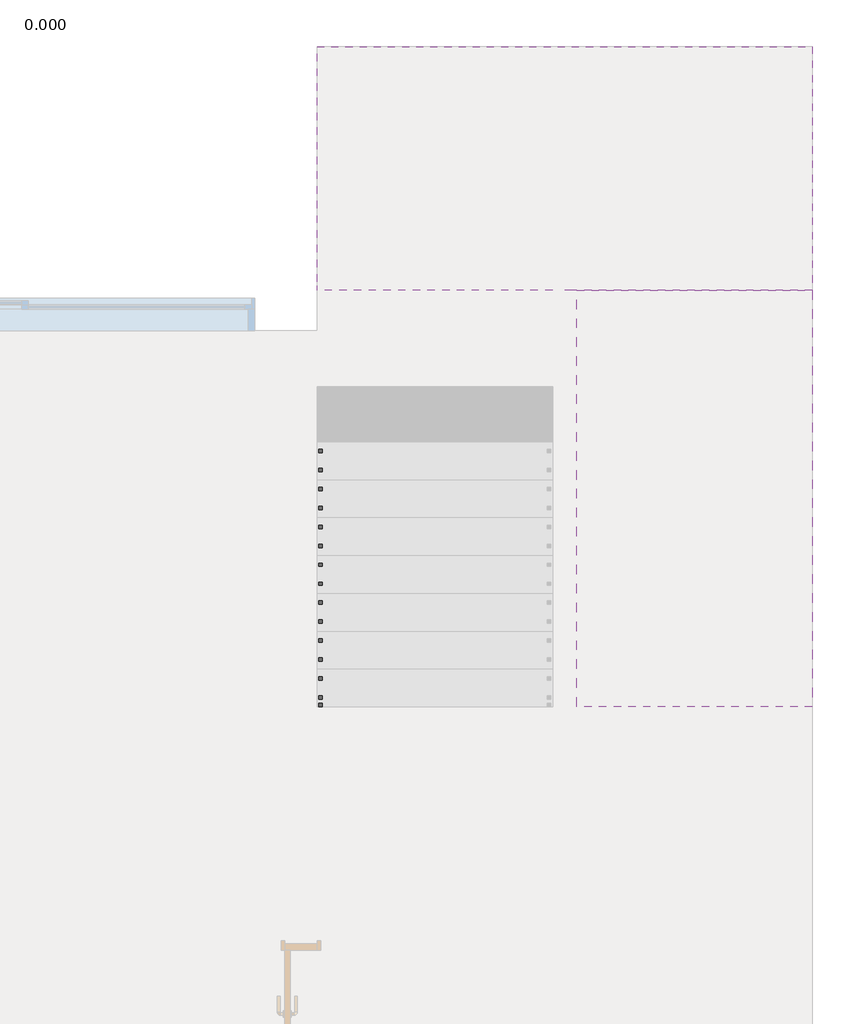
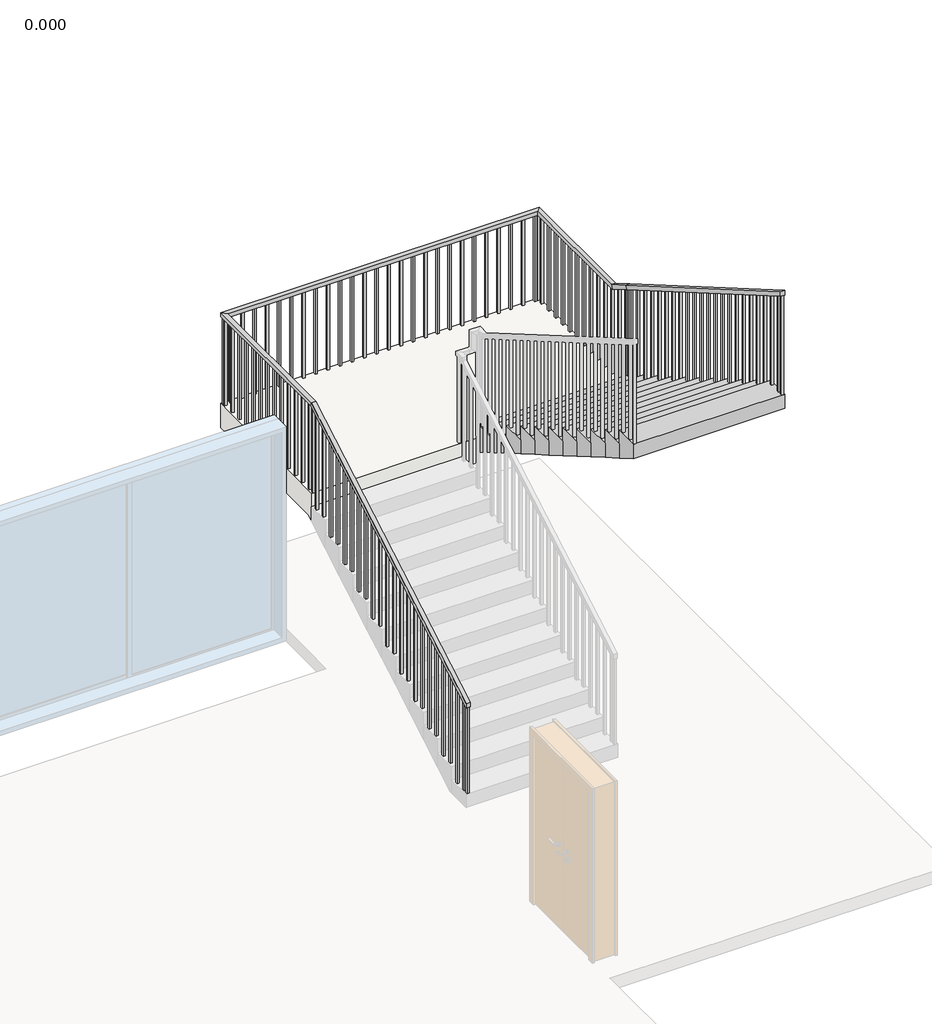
# One storey, part 4 of 4: 1 railing, 1 slab, 1 stair flight.
"""IFC4 building model written with IfcOpenShell, lengths in millimetres."""

from ifc_helpers import new_model, si_unit, frame, origin, place, context, project, spatial, polyline, outline, extrude, faceted_brep, element, save

model = new_model("IFC4")

# Units and contexts
model_context = context("Model", 3, world=origin())
ifc_project = project(units=[si_unit("LENGTHUNIT", "METRE", prefix="MILLI")], contexts=[model_context])

# Site, building, storey
site = spatial("IfcSite", under=ifc_project)
building = spatial("IfcBuilding", under=site)
storey = spatial("IfcBuildingStorey", under=building, Name="0.000", Elevation=0.0)

# Railing
placement = place(None, origin())
element("IfcRailing", 1, ObjectType="1100mm", at=placement, inside=storey, context=model_context, shape_type="SolidModel", body=[
    faceted_brep([(43253.3890344, 2616.6095817, 1262.5), (43253.3890344, 2616.6095817, 1204.6896546), (43303.3890344, 2616.6095817, 1204.6896546), (43303.3890344, 2616.6095817, 1262.5), (43253.3890344, 5696.6095817, 3050.0), (43253.3890344, 5710.0674076, 3000.0), (43303.3890344, 5710.0674076, 3000.0), (43303.3890344, 5696.6095817, 3050.0), (43253.3890344, 7496.2095817, 3050.0), (43253.3890344, 7496.2095817, 3000.0), (43303.3890344, 7446.2095817, 3000.0), (43303.3890344, 7446.2095817, 3050.0), (46912.5890344, 7496.2095817, 3050.0), (46912.5890344, 7496.2095817, 3000.0), (46862.5890344, 7446.2095817, 3000.0), (46862.5890344, 7446.2095817, 3050.0), (46912.5890344, 5976.6095817, 3050.0), (46912.5890344, 5963.1517559, 3000.0), (46862.5890344, 5963.1517559, 3000.0), (46862.5890344, 5976.6095817, 3050.0), (46912.5890344, 5696.6095817, 3212.5), (46912.5890344, 5671.5121213, 3169.2551451), (46862.5890344, 5671.5121213, 3169.2551451), (46862.5890344, 5696.6095817, 3212.5), (46912.5890344, 2616.6095817, 5000.0), (46862.5890344, 2616.6095817, 5000.0), (46862.5890344, 2616.6095817, 4942.1896546), (46912.5890344, 2616.6095817, 4942.1896546)], [[[0, 1, 2, 3]], [[1, 0, 4, 5]], [[2, 1, 5, 6]], [[3, 2, 6, 7]], [[0, 3, 7, 4]], [[5, 4, 8, 9]], [[6, 5, 9, 10]], [[7, 6, 10, 11]], [[4, 7, 11, 8]], [[9, 8, 12, 13]], [[10, 9, 13, 14]], [[11, 10, 14, 15]], [[8, 11, 15, 12]], [[13, 12, 16, 17]], [[14, 13, 17, 18]], [[15, 14, 18, 19]], [[12, 15, 19, 16]], [[17, 16, 20, 21]], [[18, 17, 21, 22]], [[19, 18, 22, 23]], [[16, 19, 23, 20]], [[24, 25, 26, 27]], [[21, 20, 24, 27]], [[22, 21, 27, 26]], [[23, 22, 26, 25]], [[20, 23, 25, 24]]]),
    extrude(outline(polyline([(2699.1095817, 3737.5), (2674.1095817, 3737.5), (2674.1095817, 4908.8191189), (2699.1095817, 4894.3101903), (2699.1095817, 3737.5)])), frame((46875.0890344, 0.0, 0.0), z_axis=(1.0, 0.0, 0.0), x_axis=(0.0, 1.0, 0.0)), (0.0, 0.0, 1.0), 25.0),
    extrude(outline(polyline([(2839.1095817, 3737.5), (2814.1095817, 3737.5), (2814.1095817, 4827.5691189), (2839.1095817, 4813.0601903), (2839.1095817, 3737.5)])), frame((46875.0890344, 0.0, 0.0), z_axis=(1.0, 0.0, 0.0), x_axis=(0.0, 1.0, 0.0)), (0.0, 0.0, 1.0), 25.0),
    extrude(outline(polyline([(2979.1095817, 3575.0), (2954.1095817, 3575.0), (2954.1095817, 4746.3191189), (2979.1095817, 4731.8101903), (2979.1095817, 3575.0)])), frame((46875.0890344, 0.0, 0.0), z_axis=(1.0, 0.0, 0.0), x_axis=(0.0, 1.0, 0.0)), (0.0, 0.0, 1.0), 25.0),
    extrude(outline(polyline([(3119.1095817, 3575.0), (3094.1095817, 3575.0), (3094.1095817, 4665.0691189), (3119.1095817, 4650.5601903), (3119.1095817, 3575.0)])), frame((46875.0890344, 0.0, 0.0), z_axis=(1.0, 0.0, 0.0), x_axis=(0.0, 1.0, 0.0)), (0.0, 0.0, 1.0), 25.0),
    extrude(outline(polyline([(3259.1095817, 3412.5), (3234.1095817, 3412.5), (3234.1095817, 4583.8191189), (3259.1095817, 4569.3101903), (3259.1095817, 3412.5)])), frame((46875.0890344, 0.0, 0.0), z_axis=(1.0, 0.0, 0.0), x_axis=(0.0, 1.0, 0.0)), (0.0, 0.0, 1.0), 25.0),
    extrude(outline(polyline([(3399.1095817, 3412.5), (3374.1095817, 3412.5), (3374.1095817, 4502.5691189), (3399.1095817, 4488.0601903), (3399.1095817, 3412.5)])), frame((46875.0890344, 0.0, 0.0), z_axis=(1.0, 0.0, 0.0), x_axis=(0.0, 1.0, 0.0)), (0.0, 0.0, 1.0), 25.0),
    extrude(outline(polyline([(3539.1095817, 3250.0), (3514.1095817, 3250.0), (3514.1095817, 4421.3191189), (3539.1095817, 4406.8101903), (3539.1095817, 3250.0)])), frame((46875.0890344, 0.0, 0.0), z_axis=(1.0, 0.0, 0.0), x_axis=(0.0, 1.0, 0.0)), (0.0, 0.0, 1.0), 25.0),
    extrude(outline(polyline([(3679.1095817, 3250.0), (3654.1095817, 3250.0), (3654.1095817, 4340.0691189), (3679.1095817, 4325.5601903), (3679.1095817, 3250.0)])), frame((46875.0890344, 0.0, 0.0), z_axis=(1.0, 0.0, 0.0), x_axis=(0.0, 1.0, 0.0)), (0.0, 0.0, 1.0), 25.0),
    extrude(outline(polyline([(3819.1095817, 3087.5), (3794.1095817, 3087.5), (3794.1095817, 4258.8191189), (3819.1095817, 4244.3101903), (3819.1095817, 3087.5)])), frame((46875.0890344, 0.0, 0.0), z_axis=(1.0, 0.0, 0.0), x_axis=(0.0, 1.0, 0.0)), (0.0, 0.0, 1.0), 25.0),
    extrude(outline(polyline([(3959.1095817, 3087.5), (3934.1095817, 3087.5), (3934.1095817, 4177.5691189), (3959.1095817, 4163.0601903), (3959.1095817, 3087.5)])), frame((46875.0890344, 0.0, 0.0), z_axis=(1.0, 0.0, 0.0), x_axis=(0.0, 1.0, 0.0)), (0.0, 0.0, 1.0), 25.0),
    extrude(outline(polyline([(4099.1095817, 2925.0), (4074.1095817, 2925.0), (4074.1095817, 4096.3191189), (4099.1095817, 4081.8101903), (4099.1095817, 2925.0)])), frame((46875.0890344, 0.0, 0.0), z_axis=(1.0, 0.0, 0.0), x_axis=(0.0, 1.0, 0.0)), (0.0, 0.0, 1.0), 25.0),
    extrude(outline(polyline([(4239.1095817, 2925.0), (4214.1095817, 2925.0), (4214.1095817, 4015.0691189), (4239.1095817, 4000.5601903), (4239.1095817, 2925.0)])), frame((46875.0890344, 0.0, 0.0), z_axis=(1.0, 0.0, 0.0), x_axis=(0.0, 1.0, 0.0)), (0.0, 0.0, 1.0), 25.0),
    extrude(outline(polyline([(4379.1095817, 2762.5), (4354.1095817, 2762.5), (4354.1095817, 3933.8191189), (4379.1095817, 3919.3101903), (4379.1095817, 2762.5)])), frame((46875.0890344, 0.0, 0.0), z_axis=(1.0, 0.0, 0.0), x_axis=(0.0, 1.0, 0.0)), (0.0, 0.0, 1.0), 25.0),
    extrude(outline(polyline([(4519.1095817, 2762.5), (4494.1095817, 2762.5), (4494.1095817, 3852.5691189), (4519.1095817, 3838.0601903), (4519.1095817, 2762.5)])), frame((46875.0890344, 0.0, 0.0), z_axis=(1.0, 0.0, 0.0), x_axis=(0.0, 1.0, 0.0)), (0.0, 0.0, 1.0), 25.0),
    extrude(outline(polyline([(4659.1095817, 2600.0), (4634.1095817, 2600.0), (4634.1095817, 3771.3191189), (4659.1095817, 3756.8101903), (4659.1095817, 2600.0)])), frame((46875.0890344, 0.0, 0.0), z_axis=(1.0, 0.0, 0.0), x_axis=(0.0, 1.0, 0.0)), (0.0, 0.0, 1.0), 25.0),
    extrude(outline(polyline([(4799.1095817, 2600.0), (4774.1095817, 2600.0), (4774.1095817, 3690.0691189), (4799.1095817, 3675.5601903), (4799.1095817, 2600.0)])), frame((46875.0890344, 0.0, 0.0), z_axis=(1.0, 0.0, 0.0), x_axis=(0.0, 1.0, 0.0)), (0.0, 0.0, 1.0), 25.0),
    extrude(outline(polyline([(4939.1095817, 2437.5), (4914.1095817, 2437.5), (4914.1095817, 3608.8191189), (4939.1095817, 3594.3101903), (4939.1095817, 2437.5)])), frame((46875.0890344, 0.0, 0.0), z_axis=(1.0, 0.0, 0.0), x_axis=(0.0, 1.0, 0.0)), (0.0, 0.0, 1.0), 25.0),
    extrude(outline(polyline([(5079.1095817, 2437.5), (5054.1095817, 2437.5), (5054.1095817, 3527.5691189), (5079.1095817, 3513.0601903), (5079.1095817, 2437.5)])), frame((46875.0890344, 0.0, 0.0), z_axis=(1.0, 0.0, 0.0), x_axis=(0.0, 1.0, 0.0)), (0.0, 0.0, 1.0), 25.0),
    extrude(outline(polyline([(5219.1095817, 2275.0), (5194.1095817, 2275.0), (5194.1095817, 3446.3191189), (5219.1095817, 3431.8101903), (5219.1095817, 2275.0)])), frame((46875.0890344, 0.0, 0.0), z_axis=(1.0, 0.0, 0.0), x_axis=(0.0, 1.0, 0.0)), (0.0, 0.0, 1.0), 25.0),
    extrude(outline(polyline([(5359.1095817, 2275.0), (5334.1095817, 2275.0), (5334.1095817, 3365.0691189), (5359.1095817, 3350.5601903), (5359.1095817, 2275.0)])), frame((46875.0890344, 0.0, 0.0), z_axis=(1.0, 0.0, 0.0), x_axis=(0.0, 1.0, 0.0)), (0.0, 0.0, 1.0), 25.0),
    extrude(outline(polyline([(5499.1095817, 2112.5), (5474.1095817, 2112.5), (5474.1095817, 3283.8191189), (5499.1095817, 3269.3101903), (5499.1095817, 2112.5)])), frame((46875.0890344, 0.0, 0.0), z_axis=(1.0, 0.0, 0.0), x_axis=(0.0, 1.0, 0.0)), (0.0, 0.0, 1.0), 25.0),
    extrude(outline(polyline([(5639.1095817, 2112.5), (5614.1095817, 2112.5), (5614.1095817, 3202.5691189), (5639.1095817, 3188.0601903), (5639.1095817, 2112.5)])), frame((46875.0890344, 0.0, 0.0), z_axis=(1.0, 0.0, 0.0), x_axis=(0.0, 1.0, 0.0)), (0.0, 0.0, 1.0), 25.0),
    extrude(outline(polyline([(5733.7095817, 1950.0), (5708.7095817, 1950.0), (5708.7095817, 3147.6673332), (5733.7095817, 3133.1584046), (5733.7095817, 1950.0)])), frame((46875.0890344, 0.0, 0.0), z_axis=(1.0, 0.0, 0.0), x_axis=(0.0, 1.0, 0.0)), (0.0, 0.0, 1.0), 25.0),
    extrude(outline(polyline([(5873.7095817, 1950.0), (5848.7095817, 1950.0), (5848.7095817, 3066.4173332), (5873.7095817, 3051.9084046), (5873.7095817, 1950.0)])), frame((46875.0890344, 0.0, 0.0), z_axis=(1.0, 0.0, 0.0), x_axis=(0.0, 1.0, 0.0)), (0.0, 0.0, 1.0), 25.0),
    extrude(outline(polyline([(46900.0890344, 6013.7095817), (46900.0890344, 5988.7095817), (46875.0890344, 5988.7095817), (46875.0890344, 6013.7095817), (46900.0890344, 6013.7095817)])), frame((0.0, 0.0, 1950.0), z_axis=(0.0, 0.0, 1.0), x_axis=(1.0, 0.0, 0.0)), (0.0, 0.0, 1.0), 1050.0),
    extrude(outline(polyline([(46900.0890344, 6153.7095817), (46900.0890344, 6128.7095817), (46875.0890344, 6128.7095817), (46875.0890344, 6153.7095817), (46900.0890344, 6153.7095817)])), frame((0.0, 0.0, 1950.0), z_axis=(0.0, 0.0, 1.0), x_axis=(1.0, 0.0, 0.0)), (0.0, 0.0, 1.0), 1050.0),
    extrude(outline(polyline([(46900.0890344, 6293.7095817), (46900.0890344, 6268.7095817), (46875.0890344, 6268.7095817), (46875.0890344, 6293.7095817), (46900.0890344, 6293.7095817)])), frame((0.0, 0.0, 1950.0), z_axis=(0.0, 0.0, 1.0), x_axis=(1.0, 0.0, 0.0)), (0.0, 0.0, 1.0), 1050.0),
    extrude(outline(polyline([(46900.0890344, 6433.7095817), (46900.0890344, 6408.7095817), (46875.0890344, 6408.7095817), (46875.0890344, 6433.7095817), (46900.0890344, 6433.7095817)])), frame((0.0, 0.0, 1950.0), z_axis=(0.0, 0.0, 1.0), x_axis=(1.0, 0.0, 0.0)), (0.0, 0.0, 1.0), 1050.0),
    extrude(outline(polyline([(46900.0890344, 6573.7095817), (46900.0890344, 6548.7095817), (46875.0890344, 6548.7095817), (46875.0890344, 6573.7095817), (46900.0890344, 6573.7095817)])), frame((0.0, 0.0, 1950.0), z_axis=(0.0, 0.0, 1.0), x_axis=(1.0, 0.0, 0.0)), (0.0, 0.0, 1.0), 1050.0),
    extrude(outline(polyline([(46900.0890344, 6713.7095817), (46900.0890344, 6688.7095817), (46875.0890344, 6688.7095817), (46875.0890344, 6713.7095817), (46900.0890344, 6713.7095817)])), frame((0.0, 0.0, 1950.0), z_axis=(0.0, 0.0, 1.0), x_axis=(1.0, 0.0, 0.0)), (0.0, 0.0, 1.0), 1050.0),
    extrude(outline(polyline([(46900.0890344, 6853.7095817), (46900.0890344, 6828.7095817), (46875.0890344, 6828.7095817), (46875.0890344, 6853.7095817), (46900.0890344, 6853.7095817)])), frame((0.0, 0.0, 1950.0), z_axis=(0.0, 0.0, 1.0), x_axis=(1.0, 0.0, 0.0)), (0.0, 0.0, 1.0), 1050.0),
    extrude(outline(polyline([(46900.0890344, 6993.7095817), (46900.0890344, 6968.7095817), (46875.0890344, 6968.7095817), (46875.0890344, 6993.7095817), (46900.0890344, 6993.7095817)])), frame((0.0, 0.0, 1950.0), z_axis=(0.0, 0.0, 1.0), x_axis=(1.0, 0.0, 0.0)), (0.0, 0.0, 1.0), 1050.0),
    extrude(outline(polyline([(46900.0890344, 7133.7095817), (46900.0890344, 7108.7095817), (46875.0890344, 7108.7095817), (46875.0890344, 7133.7095817), (46900.0890344, 7133.7095817)])), frame((0.0, 0.0, 1950.0), z_axis=(0.0, 0.0, 1.0), x_axis=(1.0, 0.0, 0.0)), (0.0, 0.0, 1.0), 1050.0),
    extrude(outline(polyline([(46900.0890344, 7273.7095817), (46900.0890344, 7248.7095817), (46875.0890344, 7248.7095817), (46875.0890344, 7273.7095817), (46900.0890344, 7273.7095817)])), frame((0.0, 0.0, 1950.0), z_axis=(0.0, 0.0, 1.0), x_axis=(1.0, 0.0, 0.0)), (0.0, 0.0, 1.0), 1050.0),
    extrude(outline(polyline([(46900.0890344, 7413.7095817), (46900.0890344, 7388.7095817), (46875.0890344, 7388.7095817), (46875.0890344, 7413.7095817), (46900.0890344, 7413.7095817)])), frame((0.0, 0.0, 1950.0), z_axis=(0.0, 0.0, 1.0), x_axis=(1.0, 0.0, 0.0)), (0.0, 0.0, 1.0), 1050.0),
    extrude(outline(polyline([(46835.8890344, 7483.7095817), (46860.8890344, 7483.7095817), (46860.8890344, 7458.7095817), (46835.8890344, 7458.7095817), (46835.8890344, 7483.7095817)])), frame((0.0, 0.0, 1950.0), z_axis=(0.0, 0.0, 1.0), x_axis=(1.0, 0.0, 0.0)), (0.0, 0.0, 1.0), 1050.0),
    extrude(outline(polyline([(46695.8890344, 7483.7095817), (46720.8890344, 7483.7095817), (46720.8890344, 7458.7095817), (46695.8890344, 7458.7095817), (46695.8890344, 7483.7095817)])), frame((0.0, 0.0, 1950.0), z_axis=(0.0, 0.0, 1.0), x_axis=(1.0, 0.0, 0.0)), (0.0, 0.0, 1.0), 1050.0),
    extrude(outline(polyline([(46555.8890344, 7483.7095817), (46580.8890344, 7483.7095817), (46580.8890344, 7458.7095817), (46555.8890344, 7458.7095817), (46555.8890344, 7483.7095817)])), frame((0.0, 0.0, 1950.0), z_axis=(0.0, 0.0, 1.0), x_axis=(1.0, 0.0, 0.0)), (0.0, 0.0, 1.0), 1050.0),
    extrude(outline(polyline([(46415.8890344, 7483.7095817), (46440.8890344, 7483.7095817), (46440.8890344, 7458.7095817), (46415.8890344, 7458.7095817), (46415.8890344, 7483.7095817)])), frame((0.0, 0.0, 1950.0), z_axis=(0.0, 0.0, 1.0), x_axis=(1.0, 0.0, 0.0)), (0.0, 0.0, 1.0), 1050.0),
    extrude(outline(polyline([(46275.8890344, 7483.7095817), (46300.8890344, 7483.7095817), (46300.8890344, 7458.7095817), (46275.8890344, 7458.7095817), (46275.8890344, 7483.7095817)])), frame((0.0, 0.0, 1950.0), z_axis=(0.0, 0.0, 1.0), x_axis=(1.0, 0.0, 0.0)), (0.0, 0.0, 1.0), 1050.0),
    extrude(outline(polyline([(46135.8890344, 7483.7095817), (46160.8890344, 7483.7095817), (46160.8890344, 7458.7095817), (46135.8890344, 7458.7095817), (46135.8890344, 7483.7095817)])), frame((0.0, 0.0, 1950.0), z_axis=(0.0, 0.0, 1.0), x_axis=(1.0, 0.0, 0.0)), (0.0, 0.0, 1.0), 1050.0),
    extrude(outline(polyline([(45995.8890344, 7483.7095817), (46020.8890344, 7483.7095817), (46020.8890344, 7458.7095817), (45995.8890344, 7458.7095817), (45995.8890344, 7483.7095817)])), frame((0.0, 0.0, 1950.0), z_axis=(0.0, 0.0, 1.0), x_axis=(1.0, 0.0, 0.0)), (0.0, 0.0, 1.0), 1050.0),
    extrude(outline(polyline([(45855.8890344, 7483.7095817), (45880.8890344, 7483.7095817), (45880.8890344, 7458.7095817), (45855.8890344, 7458.7095817), (45855.8890344, 7483.7095817)])), frame((0.0, 0.0, 1950.0), z_axis=(0.0, 0.0, 1.0), x_axis=(1.0, 0.0, 0.0)), (0.0, 0.0, 1.0), 1050.0),
    extrude(outline(polyline([(45715.8890344, 7483.7095817), (45740.8890344, 7483.7095817), (45740.8890344, 7458.7095817), (45715.8890344, 7458.7095817), (45715.8890344, 7483.7095817)])), frame((0.0, 0.0, 1950.0), z_axis=(0.0, 0.0, 1.0), x_axis=(1.0, 0.0, 0.0)), (0.0, 0.0, 1.0), 1050.0),
    extrude(outline(polyline([(45575.8890344, 7483.7095817), (45600.8890344, 7483.7095817), (45600.8890344, 7458.7095817), (45575.8890344, 7458.7095817), (45575.8890344, 7483.7095817)])), frame((0.0, 0.0, 1950.0), z_axis=(0.0, 0.0, 1.0), x_axis=(1.0, 0.0, 0.0)), (0.0, 0.0, 1.0), 1050.0),
    extrude(outline(polyline([(45435.8890344, 7483.7095817), (45460.8890344, 7483.7095817), (45460.8890344, 7458.7095817), (45435.8890344, 7458.7095817), (45435.8890344, 7483.7095817)])), frame((0.0, 0.0, 1950.0), z_axis=(0.0, 0.0, 1.0), x_axis=(1.0, 0.0, 0.0)), (0.0, 0.0, 1.0), 1050.0),
    extrude(outline(polyline([(45295.8890344, 7483.7095817), (45320.8890344, 7483.7095817), (45320.8890344, 7458.7095817), (45295.8890344, 7458.7095817), (45295.8890344, 7483.7095817)])), frame((0.0, 0.0, 1950.0), z_axis=(0.0, 0.0, 1.0), x_axis=(1.0, 0.0, 0.0)), (0.0, 0.0, 1.0), 1050.0),
    extrude(outline(polyline([(45155.8890344, 7483.7095817), (45180.8890344, 7483.7095817), (45180.8890344, 7458.7095817), (45155.8890344, 7458.7095817), (45155.8890344, 7483.7095817)])), frame((0.0, 0.0, 1950.0), z_axis=(0.0, 0.0, 1.0), x_axis=(1.0, 0.0, 0.0)), (0.0, 0.0, 1.0), 1050.0),
    extrude(outline(polyline([(45015.8890344, 7483.7095817), (45040.8890344, 7483.7095817), (45040.8890344, 7458.7095817), (45015.8890344, 7458.7095817), (45015.8890344, 7483.7095817)])), frame((0.0, 0.0, 1950.0), z_axis=(0.0, 0.0, 1.0), x_axis=(1.0, 0.0, 0.0)), (0.0, 0.0, 1.0), 1050.0),
    extrude(outline(polyline([(44875.8890344, 7483.7095817), (44900.8890344, 7483.7095817), (44900.8890344, 7458.7095817), (44875.8890344, 7458.7095817), (44875.8890344, 7483.7095817)])), frame((0.0, 0.0, 1950.0), z_axis=(0.0, 0.0, 1.0), x_axis=(1.0, 0.0, 0.0)), (0.0, 0.0, 1.0), 1050.0),
    extrude(outline(polyline([(44735.8890344, 7483.7095817), (44760.8890344, 7483.7095817), (44760.8890344, 7458.7095817), (44735.8890344, 7458.7095817), (44735.8890344, 7483.7095817)])), frame((0.0, 0.0, 1950.0), z_axis=(0.0, 0.0, 1.0), x_axis=(1.0, 0.0, 0.0)), (0.0, 0.0, 1.0), 1050.0),
    extrude(outline(polyline([(44595.8890344, 7483.7095817), (44620.8890344, 7483.7095817), (44620.8890344, 7458.7095817), (44595.8890344, 7458.7095817), (44595.8890344, 7483.7095817)])), frame((0.0, 0.0, 1950.0), z_axis=(0.0, 0.0, 1.0), x_axis=(1.0, 0.0, 0.0)), (0.0, 0.0, 1.0), 1050.0),
    extrude(outline(polyline([(44455.8890344, 7483.7095817), (44480.8890344, 7483.7095817), (44480.8890344, 7458.7095817), (44455.8890344, 7458.7095817), (44455.8890344, 7483.7095817)])), frame((0.0, 0.0, 1950.0), z_axis=(0.0, 0.0, 1.0), x_axis=(1.0, 0.0, 0.0)), (0.0, 0.0, 1.0), 1050.0),
    extrude(outline(polyline([(44315.8890344, 7483.7095817), (44340.8890344, 7483.7095817), (44340.8890344, 7458.7095817), (44315.8890344, 7458.7095817), (44315.8890344, 7483.7095817)])), frame((0.0, 0.0, 1950.0), z_axis=(0.0, 0.0, 1.0), x_axis=(1.0, 0.0, 0.0)), (0.0, 0.0, 1.0), 1050.0),
    extrude(outline(polyline([(44175.8890344, 7483.7095817), (44200.8890344, 7483.7095817), (44200.8890344, 7458.7095817), (44175.8890344, 7458.7095817), (44175.8890344, 7483.7095817)])), frame((0.0, 0.0, 1950.0), z_axis=(0.0, 0.0, 1.0), x_axis=(1.0, 0.0, 0.0)), (0.0, 0.0, 1.0), 1050.0),
    extrude(outline(polyline([(44035.8890344, 7483.7095817), (44060.8890344, 7483.7095817), (44060.8890344, 7458.7095817), (44035.8890344, 7458.7095817), (44035.8890344, 7483.7095817)])), frame((0.0, 0.0, 1950.0), z_axis=(0.0, 0.0, 1.0), x_axis=(1.0, 0.0, 0.0)), (0.0, 0.0, 1.0), 1050.0),
    extrude(outline(polyline([(43895.8890344, 7483.7095817), (43920.8890344, 7483.7095817), (43920.8890344, 7458.7095817), (43895.8890344, 7458.7095817), (43895.8890344, 7483.7095817)])), frame((0.0, 0.0, 1950.0), z_axis=(0.0, 0.0, 1.0), x_axis=(1.0, 0.0, 0.0)), (0.0, 0.0, 1.0), 1050.0),
    extrude(outline(polyline([(43755.8890344, 7483.7095817), (43780.8890344, 7483.7095817), (43780.8890344, 7458.7095817), (43755.8890344, 7458.7095817), (43755.8890344, 7483.7095817)])), frame((0.0, 0.0, 1950.0), z_axis=(0.0, 0.0, 1.0), x_axis=(1.0, 0.0, 0.0)), (0.0, 0.0, 1.0), 1050.0),
    extrude(outline(polyline([(43615.8890344, 7483.7095817), (43640.8890344, 7483.7095817), (43640.8890344, 7458.7095817), (43615.8890344, 7458.7095817), (43615.8890344, 7483.7095817)])), frame((0.0, 0.0, 1950.0), z_axis=(0.0, 0.0, 1.0), x_axis=(1.0, 0.0, 0.0)), (0.0, 0.0, 1.0), 1050.0),
    extrude(outline(polyline([(43475.8890344, 7483.7095817), (43500.8890344, 7483.7095817), (43500.8890344, 7458.7095817), (43475.8890344, 7458.7095817), (43475.8890344, 7483.7095817)])), frame((0.0, 0.0, 1950.0), z_axis=(0.0, 0.0, 1.0), x_axis=(1.0, 0.0, 0.0)), (0.0, 0.0, 1.0), 1050.0),
    extrude(outline(polyline([(43335.8890344, 7483.7095817), (43360.8890344, 7483.7095817), (43360.8890344, 7458.7095817), (43335.8890344, 7458.7095817), (43335.8890344, 7483.7095817)])), frame((0.0, 0.0, 1950.0), z_axis=(0.0, 0.0, 1.0), x_axis=(1.0, 0.0, 0.0)), (0.0, 0.0, 1.0), 1050.0),
    extrude(outline(polyline([(43265.8890344, 7434.1095817), (43265.8890344, 7459.1095817), (43290.8890344, 7459.1095817), (43290.8890344, 7434.1095817), (43265.8890344, 7434.1095817)])), frame((0.0, 0.0, 1950.0), z_axis=(0.0, 0.0, 1.0), x_axis=(1.0, 0.0, 0.0)), (0.0, 0.0, 1.0), 1050.0),
    extrude(outline(polyline([(43265.8890344, 7294.1095817), (43265.8890344, 7319.1095817), (43290.8890344, 7319.1095817), (43290.8890344, 7294.1095817), (43265.8890344, 7294.1095817)])), frame((0.0, 0.0, 1950.0), z_axis=(0.0, 0.0, 1.0), x_axis=(1.0, 0.0, 0.0)), (0.0, 0.0, 1.0), 1050.0),
    extrude(outline(polyline([(43265.8890344, 7154.1095817), (43265.8890344, 7179.1095817), (43290.8890344, 7179.1095817), (43290.8890344, 7154.1095817), (43265.8890344, 7154.1095817)])), frame((0.0, 0.0, 1950.0), z_axis=(0.0, 0.0, 1.0), x_axis=(1.0, 0.0, 0.0)), (0.0, 0.0, 1.0), 1050.0),
    extrude(outline(polyline([(43265.8890344, 7014.1095817), (43265.8890344, 7039.1095817), (43290.8890344, 7039.1095817), (43290.8890344, 7014.1095817), (43265.8890344, 7014.1095817)])), frame((0.0, 0.0, 1950.0), z_axis=(0.0, 0.0, 1.0), x_axis=(1.0, 0.0, 0.0)), (0.0, 0.0, 1.0), 1050.0),
    extrude(outline(polyline([(43265.8890344, 6874.1095817), (43265.8890344, 6899.1095817), (43290.8890344, 6899.1095817), (43290.8890344, 6874.1095817), (43265.8890344, 6874.1095817)])), frame((0.0, 0.0, 1950.0), z_axis=(0.0, 0.0, 1.0), x_axis=(1.0, 0.0, 0.0)), (0.0, 0.0, 1.0), 1050.0),
    extrude(outline(polyline([(43265.8890344, 6734.1095817), (43265.8890344, 6759.1095817), (43290.8890344, 6759.1095817), (43290.8890344, 6734.1095817), (43265.8890344, 6734.1095817)])), frame((0.0, 0.0, 1950.0), z_axis=(0.0, 0.0, 1.0), x_axis=(1.0, 0.0, 0.0)), (0.0, 0.0, 1.0), 1050.0),
    extrude(outline(polyline([(43265.8890344, 6594.1095817), (43265.8890344, 6619.1095817), (43290.8890344, 6619.1095817), (43290.8890344, 6594.1095817), (43265.8890344, 6594.1095817)])), frame((0.0, 0.0, 1950.0), z_axis=(0.0, 0.0, 1.0), x_axis=(1.0, 0.0, 0.0)), (0.0, 0.0, 1.0), 1050.0),
    extrude(outline(polyline([(43265.8890344, 6454.1095817), (43265.8890344, 6479.1095817), (43290.8890344, 6479.1095817), (43290.8890344, 6454.1095817), (43265.8890344, 6454.1095817)])), frame((0.0, 0.0, 1950.0), z_axis=(0.0, 0.0, 1.0), x_axis=(1.0, 0.0, 0.0)), (0.0, 0.0, 1.0), 1050.0),
    extrude(outline(polyline([(43265.8890344, 6314.1095817), (43265.8890344, 6339.1095817), (43290.8890344, 6339.1095817), (43290.8890344, 6314.1095817), (43265.8890344, 6314.1095817)])), frame((0.0, 0.0, 1950.0), z_axis=(0.0, 0.0, 1.0), x_axis=(1.0, 0.0, 0.0)), (0.0, 0.0, 1.0), 1050.0),
    extrude(outline(polyline([(43265.8890344, 6174.1095817), (43265.8890344, 6199.1095817), (43290.8890344, 6199.1095817), (43290.8890344, 6174.1095817), (43265.8890344, 6174.1095817)])), frame((0.0, 0.0, 1950.0), z_axis=(0.0, 0.0, 1.0), x_axis=(1.0, 0.0, 0.0)), (0.0, 0.0, 1.0), 1050.0),
    extrude(outline(polyline([(43265.8890344, 6034.1095817), (43265.8890344, 6059.1095817), (43290.8890344, 6059.1095817), (43290.8890344, 6034.1095817), (43265.8890344, 6034.1095817)])), frame((0.0, 0.0, 1950.0), z_axis=(0.0, 0.0, 1.0), x_axis=(1.0, 0.0, 0.0)), (0.0, 0.0, 1.0), 1050.0),
    extrude(outline(polyline([(43265.8890344, 5894.1095817), (43265.8890344, 5919.1095817), (43290.8890344, 5919.1095817), (43290.8890344, 5894.1095817), (43265.8890344, 5894.1095817)])), frame((0.0, 0.0, 1950.0), z_axis=(0.0, 0.0, 1.0), x_axis=(1.0, 0.0, 0.0)), (0.0, 0.0, 1.0), 1050.0),
    extrude(outline(polyline([(43265.8890344, 5754.1095817), (43265.8890344, 5779.1095817), (43290.8890344, 5779.1095817), (43290.8890344, 5754.1095817), (43265.8890344, 5754.1095817)])), frame((0.0, 0.0, 1950.0), z_axis=(0.0, 0.0, 1.0), x_axis=(1.0, 0.0, 0.0)), (0.0, 0.0, 1.0), 1050.0),
    extrude(outline(polyline([(5614.1095817, 2944.3101903), (5639.1095817, 2958.8191189), (5639.1095817, 1787.5), (5614.1095817, 1787.5), (5614.1095817, 2944.3101903)])), frame((43265.8890344, 0.0, 0.0), z_axis=(1.0, 0.0, 0.0), x_axis=(0.0, 1.0, 0.0)), (0.0, 0.0, 1.0), 25.0),
    extrude(outline(polyline([(5474.1095817, 2863.0601903), (5499.1095817, 2877.5691189), (5499.1095817, 1787.5), (5474.1095817, 1787.5), (5474.1095817, 2863.0601903)])), frame((43265.8890344, 0.0, 0.0), z_axis=(1.0, 0.0, 0.0), x_axis=(0.0, 1.0, 0.0)), (0.0, 0.0, 1.0), 25.0),
    extrude(outline(polyline([(5334.1095817, 2781.8101903), (5359.1095817, 2796.3191189), (5359.1095817, 1625.0), (5334.1095817, 1625.0), (5334.1095817, 2781.8101903)])), frame((43265.8890344, 0.0, 0.0), z_axis=(1.0, 0.0, 0.0), x_axis=(0.0, 1.0, 0.0)), (0.0, 0.0, 1.0), 25.0),
    extrude(outline(polyline([(5194.1095817, 2700.5601903), (5219.1095817, 2715.0691189), (5219.1095817, 1625.0), (5194.1095817, 1625.0), (5194.1095817, 2700.5601903)])), frame((43265.8890344, 0.0, 0.0), z_axis=(1.0, 0.0, 0.0), x_axis=(0.0, 1.0, 0.0)), (0.0, 0.0, 1.0), 25.0),
    extrude(outline(polyline([(5054.1095817, 2619.3101903), (5079.1095817, 2633.8191189), (5079.1095817, 1462.5), (5054.1095817, 1462.5), (5054.1095817, 2619.3101903)])), frame((43265.8890344, 0.0, 0.0), z_axis=(1.0, 0.0, 0.0), x_axis=(0.0, 1.0, 0.0)), (0.0, 0.0, 1.0), 25.0),
    extrude(outline(polyline([(4914.1095817, 2538.0601903), (4939.1095817, 2552.5691189), (4939.1095817, 1462.5), (4914.1095817, 1462.5), (4914.1095817, 2538.0601903)])), frame((43265.8890344, 0.0, 0.0), z_axis=(1.0, 0.0, 0.0), x_axis=(0.0, 1.0, 0.0)), (0.0, 0.0, 1.0), 25.0),
    extrude(outline(polyline([(4774.1095817, 2456.8101903), (4799.1095817, 2471.3191189), (4799.1095817, 1300.0), (4774.1095817, 1300.0), (4774.1095817, 2456.8101903)])), frame((43265.8890344, 0.0, 0.0), z_axis=(1.0, 0.0, 0.0), x_axis=(0.0, 1.0, 0.0)), (0.0, 0.0, 1.0), 25.0),
    extrude(outline(polyline([(4634.1095817, 2375.5601903), (4659.1095817, 2390.0691189), (4659.1095817, 1300.0), (4634.1095817, 1300.0), (4634.1095817, 2375.5601903)])), frame((43265.8890344, 0.0, 0.0), z_axis=(1.0, 0.0, 0.0), x_axis=(0.0, 1.0, 0.0)), (0.0, 0.0, 1.0), 25.0),
    extrude(outline(polyline([(4494.1095817, 2294.3101903), (4519.1095817, 2308.8191189), (4519.1095817, 1137.5), (4494.1095817, 1137.5), (4494.1095817, 2294.3101903)])), frame((43265.8890344, 0.0, 0.0), z_axis=(1.0, 0.0, 0.0), x_axis=(0.0, 1.0, 0.0)), (0.0, 0.0, 1.0), 25.0),
    extrude(outline(polyline([(4354.1095817, 2213.0601903), (4379.1095817, 2227.5691189), (4379.1095817, 1137.5), (4354.1095817, 1137.5), (4354.1095817, 2213.0601903)])), frame((43265.8890344, 0.0, 0.0), z_axis=(1.0, 0.0, 0.0), x_axis=(0.0, 1.0, 0.0)), (0.0, 0.0, 1.0), 25.0),
    extrude(outline(polyline([(4214.1095817, 2131.8101903), (4239.1095817, 2146.3191189), (4239.1095817, 975.0), (4214.1095817, 975.0), (4214.1095817, 2131.8101903)])), frame((43265.8890344, 0.0, 0.0), z_axis=(1.0, 0.0, 0.0), x_axis=(0.0, 1.0, 0.0)), (0.0, 0.0, 1.0), 25.0),
    extrude(outline(polyline([(4074.1095817, 2050.5601903), (4099.1095817, 2065.0691189), (4099.1095817, 975.0), (4074.1095817, 975.0), (4074.1095817, 2050.5601903)])), frame((43265.8890344, 0.0, 0.0), z_axis=(1.0, 0.0, 0.0), x_axis=(0.0, 1.0, 0.0)), (0.0, 0.0, 1.0), 25.0),
    extrude(outline(polyline([(3934.1095817, 1969.3101903), (3959.1095817, 1983.8191189), (3959.1095817, 812.5), (3934.1095817, 812.5), (3934.1095817, 1969.3101903)])), frame((43265.8890344, 0.0, 0.0), z_axis=(1.0, 0.0, 0.0), x_axis=(0.0, 1.0, 0.0)), (0.0, 0.0, 1.0), 25.0),
    extrude(outline(polyline([(3794.1095817, 1888.0601903), (3819.1095817, 1902.5691189), (3819.1095817, 812.5), (3794.1095817, 812.5), (3794.1095817, 1888.0601903)])), frame((43265.8890344, 0.0, 0.0), z_axis=(1.0, 0.0, 0.0), x_axis=(0.0, 1.0, 0.0)), (0.0, 0.0, 1.0), 25.0),
    extrude(outline(polyline([(3654.1095817, 1806.8101903), (3679.1095817, 1821.3191189), (3679.1095817, 650.0), (3654.1095817, 650.0), (3654.1095817, 1806.8101903)])), frame((43265.8890344, 0.0, 0.0), z_axis=(1.0, 0.0, 0.0), x_axis=(0.0, 1.0, 0.0)), (0.0, 0.0, 1.0), 25.0),
    extrude(outline(polyline([(3514.1095817, 1725.5601903), (3539.1095817, 1740.0691189), (3539.1095817, 650.0), (3514.1095817, 650.0), (3514.1095817, 1725.5601903)])), frame((43265.8890344, 0.0, 0.0), z_axis=(1.0, 0.0, 0.0), x_axis=(0.0, 1.0, 0.0)), (0.0, 0.0, 1.0), 25.0),
    extrude(outline(polyline([(3374.1095817, 1644.3101903), (3399.1095817, 1658.8191189), (3399.1095817, 487.5), (3374.1095817, 487.5), (3374.1095817, 1644.3101903)])), frame((43265.8890344, 0.0, 0.0), z_axis=(1.0, 0.0, 0.0), x_axis=(0.0, 1.0, 0.0)), (0.0, 0.0, 1.0), 25.0),
    extrude(outline(polyline([(3234.1095817, 1563.0601903), (3259.1095817, 1577.5691189), (3259.1095817, 487.5), (3234.1095817, 487.5), (3234.1095817, 1563.0601903)])), frame((43265.8890344, 0.0, 0.0), z_axis=(1.0, 0.0, 0.0), x_axis=(0.0, 1.0, 0.0)), (0.0, 0.0, 1.0), 25.0),
    extrude(outline(polyline([(3094.1095817, 1481.8101903), (3119.1095817, 1496.3191189), (3119.1095817, 325.0), (3094.1095817, 325.0), (3094.1095817, 1481.8101903)])), frame((43265.8890344, 0.0, 0.0), z_axis=(1.0, 0.0, 0.0), x_axis=(0.0, 1.0, 0.0)), (0.0, 0.0, 1.0), 25.0),
    extrude(outline(polyline([(2954.1095817, 1400.5601903), (2979.1095817, 1415.0691189), (2979.1095817, 325.0), (2954.1095817, 325.0), (2954.1095817, 1400.5601903)])), frame((43265.8890344, 0.0, 0.0), z_axis=(1.0, 0.0, 0.0), x_axis=(0.0, 1.0, 0.0)), (0.0, 0.0, 1.0), 25.0),
    extrude(outline(polyline([(2814.1095817, 1319.3101903), (2839.1095817, 1333.8191189), (2839.1095817, 162.5), (2814.1095817, 162.5), (2814.1095817, 1319.3101903)])), frame((43265.8890344, 0.0, 0.0), z_axis=(1.0, 0.0, 0.0), x_axis=(0.0, 1.0, 0.0)), (0.0, 0.0, 1.0), 25.0),
    extrude(outline(polyline([(2674.1095817, 1238.0601903), (2699.1095817, 1252.5691189), (2699.1095817, 162.5), (2674.1095817, 162.5), (2674.1095817, 1238.0601903)])), frame((43265.8890344, 0.0, 0.0), z_axis=(1.0, 0.0, 0.0), x_axis=(0.0, 1.0, 0.0)), (0.0, 0.0, 1.0), 25.0),
    extrude(outline(polyline([(5709.1095817, 1950.0), (5684.1095817, 1950.0), (5684.1095817, 3161.9441189), (5709.1095817, 3147.4351903), (5709.1095817, 1950.0)])), frame((46875.0890344, 0.0, 0.0), z_axis=(1.0, 0.0, 0.0), x_axis=(0.0, 1.0, 0.0)), (0.0, 0.0, 1.0), 25.0),
    extrude(outline(polyline([(46875.0890344, 7483.7095817), (46900.0890344, 7483.7095817), (46900.0890344, 7458.7095817), (46875.0890344, 7458.7095817), (46875.0890344, 7483.7095817)])), frame((0.0, 0.0, 1950.0), z_axis=(0.0, 0.0, 1.0), x_axis=(1.0, 0.0, 0.0)), (0.0, 0.0, 1.0), 1050.0),
    extrude(outline(polyline([(43265.8890344, 7458.7095817), (43265.8890344, 7483.7095817), (43290.8890344, 7483.7095817), (43290.8890344, 7458.7095817), (43265.8890344, 7458.7095817)])), frame((0.0, 0.0, 1950.0), z_axis=(0.0, 0.0, 1.0), x_axis=(1.0, 0.0, 0.0)), (0.0, 0.0, 1.0), 1050.0),
    extrude(outline(polyline([(5684.1095817, 2984.9351903), (5709.1095817, 2999.4441189), (5709.1095817, 1950.0), (5684.1095817, 1950.0), (5684.1095817, 2984.9351903)])), frame((43265.8890344, 0.0, 0.0), z_axis=(1.0, 0.0, 0.0), x_axis=(0.0, 1.0, 0.0)), (0.0, 0.0, 1.0), 25.0),
    extrude(outline(polyline([(2641.6095817, 3737.5), (2616.6095817, 3737.5), (2616.6095817, 4942.1896546), (2641.6095817, 4927.680726), (2641.6095817, 3737.5)])), frame((46875.0890344, 0.0, 0.0), z_axis=(1.0, 0.0, 0.0), x_axis=(0.0, 1.0, 0.0)), (0.0, 0.0, 1.0), 25.0),
    extrude(outline(polyline([(2616.6095817, 1204.6896546), (2641.6095817, 1219.1985832), (2641.6095817, 162.5), (2616.6095817, 162.5), (2616.6095817, 1204.6896546)])), frame((43265.8890344, 0.0, 0.0), z_axis=(1.0, 0.0, 0.0), x_axis=(0.0, 1.0, 0.0)), (0.0, 0.0, 1.0), 25.0),
])

# Slab
element("IfcSlab", 2, ObjectType="300mm 厚度", at=placement, inside=storey, context=model_context, shape_type="Brep", body=[
    faceted_brep([(43252.9890344, 5696.6095817, 1950.0), (44992.9890344, 5696.6095817, 1950.0), (45172.9890344, 5696.6095817, 1950.0), (46912.9890344, 5696.6095817, 1950.0), (46912.9890344, 5914.6976425, 1950.0), (46912.9890344, 7496.6095817, 1950.0), (43252.9890344, 7496.6095817, 1950.0), (43252.9890344, 5758.5215209, 1950.0), (43252.9890344, 5696.6095817, 1787.5), (43252.9890344, 5696.6095817, 1614.0689639), (44992.9890344, 5696.6095817, 1614.0689639), (44992.9890344, 5696.6095817, 1650.0), (45172.9890344, 5696.6095817, 1650.0), (45172.9890344, 5696.6095817, 1776.5689639), (46912.9890344, 5696.6095817, 1776.5689639), (46912.9890344, 5914.6976425, 1650.0), (46912.9890344, 7496.6095817, 1650.0), (43252.9890344, 7496.6095817, 1650.0), (43252.9890344, 5758.5215209, 1650.0), (45172.9890344, 5914.6976425, 1650.0), (44992.9890344, 5758.5215209, 1650.0)], [[[0, 1, 2, 3, 4, 5, 6, 7]], [[1, 0, 8, 9, 10, 11]], [[2, 1, 11, 12, 13]], [[3, 2, 13, 14]], [[3, 14, 15, 16, 5, 4]], [[6, 5, 16, 17]], [[9, 8, 0, 7, 6, 17, 18]], [[19, 12, 11, 20, 18, 17, 16, 15]], [[12, 19, 13]], [[18, 20, 10, 9]], [[20, 11, 10]], [[19, 15, 14, 13]]]),
])

# Stair flight
element("IfcStairFlight", 3, ObjectType="150mm 结构深度", at=placement, inside=storey, context=model_context, shape_type="Brep", body=[
    faceted_brep([(46912.9890344, 5416.6095817, 2112.5), (46912.9890344, 5696.6095817, 2112.5), (45172.9890344, 5696.6095817, 2112.5), (45172.9890344, 5416.6095817, 2112.5), (46912.9890344, 5416.6095817, 1939.0689639), (46912.9890344, 5696.6095817, 1776.5689639), (46912.9890344, 5696.6095817, 1950.0), (45172.9890344, 5696.6095817, 1776.5689639), (45172.9890344, 5416.6095817, 1939.0689639), (46912.9890344, 5136.6095817, 2275.0), (46912.9890344, 5416.6095817, 2275.0), (45172.9890344, 5416.6095817, 2275.0), (45172.9890344, 5136.6095817, 2275.0), (46912.9890344, 5136.6095817, 2101.5689639), (45172.9890344, 5136.6095817, 2101.5689639), (46912.9890344, 4856.6095817, 2437.5), (46912.9890344, 5136.6095817, 2437.5), (45172.9890344, 5136.6095817, 2437.5), (45172.9890344, 4856.6095817, 2437.5), (46912.9890344, 4856.6095817, 2264.0689639), (45172.9890344, 4856.6095817, 2264.0689639), (46912.9890344, 4576.6095817, 2600.0), (46912.9890344, 4856.6095817, 2600.0), (45172.9890344, 4856.6095817, 2600.0), (45172.9890344, 4576.6095817, 2600.0), (46912.9890344, 4576.6095817, 2426.5689639), (45172.9890344, 4576.6095817, 2426.5689639), (46912.9890344, 4296.6095817, 2762.5), (46912.9890344, 4576.6095817, 2762.5), (45172.9890344, 4576.6095817, 2762.5), (45172.9890344, 4296.6095817, 2762.5), (46912.9890344, 4296.6095817, 2589.0689639), (45172.9890344, 4296.6095817, 2589.0689639), (46912.9890344, 4016.6095817, 2925.0), (46912.9890344, 4296.6095817, 2925.0), (45172.9890344, 4296.6095817, 2925.0), (45172.9890344, 4016.6095817, 2925.0), (46912.9890344, 4016.6095817, 2751.5689639), (45172.9890344, 4016.6095817, 2751.5689639), (46912.9890344, 3736.6095817, 3087.5), (46912.9890344, 4016.6095817, 3087.5), (45172.9890344, 4016.6095817, 3087.5), (45172.9890344, 3736.6095817, 3087.5), (46912.9890344, 3736.6095817, 2914.0689639), (45172.9890344, 3736.6095817, 2914.0689639), (46912.9890344, 3456.6095817, 3250.0), (46912.9890344, 3736.6095817, 3250.0), (45172.9890344, 3736.6095817, 3250.0), (45172.9890344, 3456.6095817, 3250.0), (46912.9890344, 3456.6095817, 3076.5689639), (45172.9890344, 3456.6095817, 3076.5689639), (46912.9890344, 3176.6095817, 3412.5), (46912.9890344, 3456.6095817, 3412.5), (45172.9890344, 3456.6095817, 3412.5), (45172.9890344, 3176.6095817, 3412.5), (46912.9890344, 3176.6095817, 3239.0689639), (45172.9890344, 3176.6095817, 3239.0689639), (46912.9890344, 2896.6095817, 3575.0), (46912.9890344, 3176.6095817, 3575.0), (45172.9890344, 3176.6095817, 3575.0), (45172.9890344, 2896.6095817, 3575.0), (46912.9890344, 2896.6095817, 3401.5689639), (45172.9890344, 2896.6095817, 3401.5689639), (46912.9890344, 2616.6095817, 3737.5), (46912.9890344, 2896.6095817, 3737.5), (45172.9890344, 2896.6095817, 3737.5), (45172.9890344, 2616.6095817, 3737.5), (46912.9890344, 2616.6095817, 3564.0689639), (45172.9890344, 2616.6095817, 3564.0689639)], [[[0, 1, 2, 3]], [[1, 0, 4, 5, 6]], [[2, 1, 6, 5, 7]], [[3, 2, 7, 8]], [[9, 10, 11, 12]], [[10, 9, 13, 4, 0]], [[11, 10, 0, 3]], [[12, 11, 3, 8, 14]], [[15, 16, 17, 18]], [[16, 15, 19, 13, 9]], [[17, 16, 9, 12]], [[18, 17, 12, 14, 20]], [[21, 22, 23, 24]], [[22, 21, 25, 19, 15]], [[23, 22, 15, 18]], [[24, 23, 18, 20, 26]], [[27, 28, 29, 30]], [[28, 27, 31, 25, 21]], [[29, 28, 21, 24]], [[30, 29, 24, 26, 32]], [[33, 34, 35, 36]], [[34, 33, 37, 31, 27]], [[35, 34, 27, 30]], [[36, 35, 30, 32, 38]], [[39, 40, 41, 42]], [[40, 39, 43, 37, 33]], [[41, 40, 33, 36]], [[42, 41, 36, 38, 44]], [[45, 46, 47, 48]], [[46, 45, 49, 43, 39]], [[47, 46, 39, 42]], [[48, 47, 42, 44, 50]], [[51, 52, 53, 54]], [[52, 51, 55, 49, 45]], [[53, 52, 45, 48]], [[54, 53, 48, 50, 56]], [[57, 58, 59, 60]], [[58, 57, 61, 55, 51]], [[59, 58, 51, 54]], [[60, 59, 54, 56, 62]], [[63, 64, 65, 66]], [[64, 63, 67, 61, 57]], [[65, 64, 57, 60]], [[66, 65, 60, 62, 68]], [[63, 66, 68, 67]], [[5, 4, 13, 19, 25, 31, 37, 43, 49, 55, 61, 67, 68, 62, 56, 50, 44, 38, 32, 26, 20, 14, 8, 7]]]),
])

save(model, "model.ifc")
